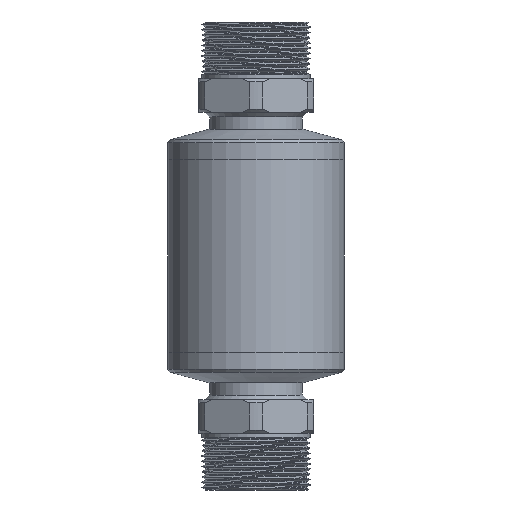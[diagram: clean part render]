
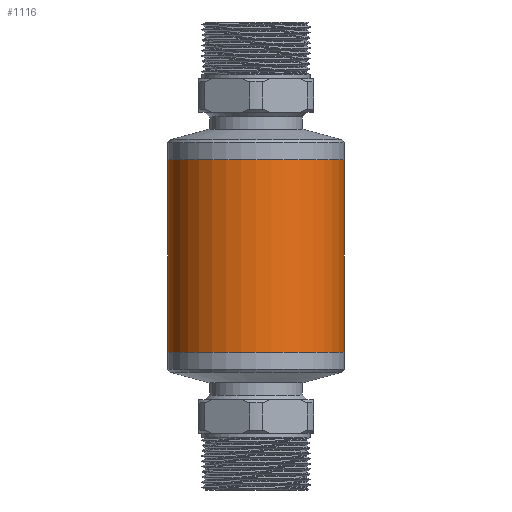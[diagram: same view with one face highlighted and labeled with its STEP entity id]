
A CAD part, front view. The second image highlights one B-rep face of the part: STEP entity #1116.
In plain terms, the highlighted cylindrical face has radius 39 mm (diameter 78 mm), a full revolution.
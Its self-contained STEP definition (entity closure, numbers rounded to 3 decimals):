
#31=ELLIPSE('',#4419,55.154,39.);
#32=ELLIPSE('',#4420,55.154,39.);
#182=LINE('',#15517,#281);
#184=LINE('',#15522,#283);
#281=VECTOR('',#5477,1.);
#283=VECTOR('',#5479,1.);
#1116=ADVANCED_FACE('',(#1369,#1370,#1371),#1209,.T.);
#1209=CYLINDRICAL_SURFACE('',#4421,39.);
#1369=FACE_BOUND('',#1708,.T.);
#1370=FACE_BOUND('',#1709,.T.);
#1371=FACE_BOUND('',#1710,.T.);
#1708=EDGE_LOOP('',(#2767,#2768,#2769,#2770));
#1709=EDGE_LOOP('',(#2771));
#1710=EDGE_LOOP('',(#2772));
#2767=ORIENTED_EDGE('',*,*,#3682,.F.);
#2768=ORIENTED_EDGE('',*,*,#3686,.T.);
#2769=ORIENTED_EDGE('',*,*,#3680,.F.);
#2770=ORIENTED_EDGE('',*,*,#3687,.T.);
#2771=ORIENTED_EDGE('',*,*,#3685,.T.);
#2772=ORIENTED_EDGE('',*,*,#3684,.F.);
#3150=VERTEX_POINT('',#15518);
#3151=VERTEX_POINT('',#15519);
#3152=VERTEX_POINT('',#15521);
#3153=VERTEX_POINT('',#15523);
#3154=VERTEX_POINT('',#15527);
#3155=VERTEX_POINT('',#15530);
#3680=EDGE_CURVE('',#3150,#3151,#182,.T.);
#3682=EDGE_CURVE('',#3152,#3153,#184,.T.);
#3684=EDGE_CURVE('',#3154,#3154,#3933,.T.);
#3685=EDGE_CURVE('',#3155,#3155,#3934,.T.);
#3686=EDGE_CURVE('',#3152,#3151,#31,.T.);
#3687=EDGE_CURVE('',#3150,#3153,#32,.T.);
#3933=CIRCLE('',#4415,39.);
#3934=CIRCLE('',#4417,39.);
#4415=AXIS2_PLACEMENT_3D('',#15526,#5483,#5484);
#4417=AXIS2_PLACEMENT_3D('',#15529,#5487,#5488);
#4419=AXIS2_PLACEMENT_3D('',#15532,#5491,#5492);
#4420=AXIS2_PLACEMENT_3D('',#15533,#5493,#5494);
#4421=AXIS2_PLACEMENT_3D('',#15534,#5495,#5496);
#5477=DIRECTION('',(0.,0.,-1.));
#5479=DIRECTION('',(0.,0.,1.));
#5483=DIRECTION('',(0.,0.,1.));
#5484=DIRECTION('',(1.,0.,0.));
#5487=DIRECTION('',(0.,0.,1.));
#5488=DIRECTION('',(-1.,0.,0.));
#5491=DIRECTION('',(0.,-0.707,-0.707));
#5492=DIRECTION('',(0.,0.707,-0.707));
#5493=DIRECTION('',(0.,-0.707,0.707));
#5494=DIRECTION('',(0.,-0.707,-0.707));
#5495=DIRECTION('',(0.,0.,-1.));
#5496=DIRECTION('',(-1.,0.,0.));
#15517=CARTESIAN_POINT('',(316.696,37.5,28.667));
#15518=CARTESIAN_POINT('',(316.696,37.5,-10.333));
#15519=CARTESIAN_POINT('',(316.696,37.5,-48.333));
#15521=CARTESIAN_POINT('',(289.554,37.5,-48.333));
#15522=CARTESIAN_POINT('',(289.554,37.5,-51.333));
#15523=CARTESIAN_POINT('',(289.554,37.5,-10.333));
#15526=CARTESIAN_POINT('',(303.125,0.938,13.167));
#15527=CARTESIAN_POINT('',(342.125,0.938,13.167));
#15529=CARTESIAN_POINT('',(303.125,0.938,-71.833));
#15530=CARTESIAN_POINT('',(264.125,0.938,-71.833));
#15532=CARTESIAN_POINT('',(303.125,0.938,-11.771));
#15533=CARTESIAN_POINT('',(303.125,0.938,-46.896));
#15534=CARTESIAN_POINT('',(303.125,0.938,28.667));
